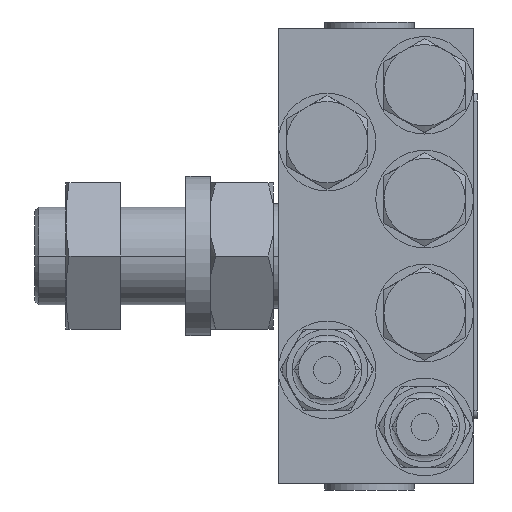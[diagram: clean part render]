
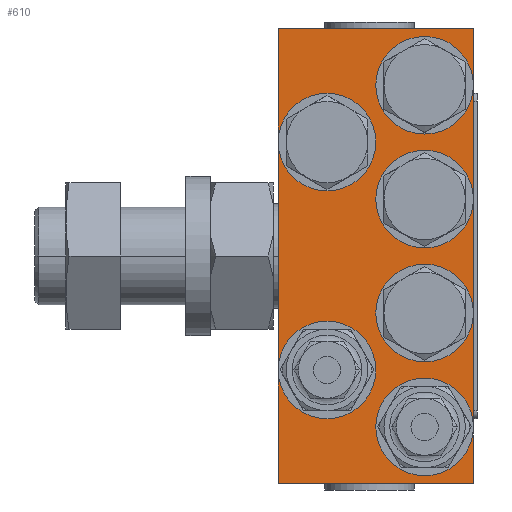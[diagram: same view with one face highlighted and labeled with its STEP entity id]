
A CAD part, left-side view. The second image highlights one B-rep face of the part: STEP entity #610.
In plain terms, the highlighted planar face has unit normal (-1, 0, 0).
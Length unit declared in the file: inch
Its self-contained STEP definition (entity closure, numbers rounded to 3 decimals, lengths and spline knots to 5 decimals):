
#1=DIRECTION('',(0.,-1.,0.));
#2=VECTOR('',#1,1.5);
#3=CARTESIAN_POINT('',(-0.5,0.75,0.));
#4=LINE('',#3,#2);
#17=DIRECTION('',(0.,-1.,0.));
#18=VECTOR('',#17,1.5);
#19=CARTESIAN_POINT('',(-0.5,0.75,3.5));
#20=LINE('',#19,#18);
#33=CARTESIAN_POINT('',(-0.5,0.375,0.875));
#34=DIRECTION('',(-1.,0.,0.));
#35=DIRECTION('',(0.,1.,0.));
#36=AXIS2_PLACEMENT_3D('',#33,#34,#35);
#38=CARTESIAN_POINT('',(-0.5,0.375,0.875));
#39=DIRECTION('',(-1.,0.,0.));
#40=DIRECTION('',(0.,-1.,0.));
#41=AXIS2_PLACEMENT_3D('',#38,#39,#40);
#43=DIRECTION('',(0.,0.,1.));
#44=VECTOR('',#43,1.75);
#45=CARTESIAN_POINT('',(-0.5,0.75,0.875));
#46=LINE('',#45,#44);
#47=CARTESIAN_POINT('',(-0.5,0.375,2.625));
#48=DIRECTION('',(-1.,0.,0.));
#49=DIRECTION('',(0.,1.,0.));
#50=AXIS2_PLACEMENT_3D('',#47,#48,#49);
#52=CARTESIAN_POINT('',(-0.5,0.375,2.625));
#53=DIRECTION('',(-1.,0.,0.));
#54=DIRECTION('',(0.,-1.,0.));
#55=AXIS2_PLACEMENT_3D('',#52,#53,#54);
#57=DIRECTION('',(0.,0.,1.));
#58=VECTOR('',#57,0.875);
#59=CARTESIAN_POINT('',(-0.5,0.75,2.625));
#60=LINE('',#59,#58);
#61=CARTESIAN_POINT('',(-0.5,-0.375,3.062));
#62=DIRECTION('',(-1.,0.,0.));
#63=DIRECTION('',(0.,-1.,0.));
#64=AXIS2_PLACEMENT_3D('',#61,#62,#63);
#66=CARTESIAN_POINT('',(-0.5,-0.375,3.062));
#67=DIRECTION('',(-1.,0.,0.));
#68=DIRECTION('',(0.,1.,0.));
#69=AXIS2_PLACEMENT_3D('',#66,#67,#68);
#71=CARTESIAN_POINT('',(-0.5,-0.375,2.187));
#72=DIRECTION('',(-1.,0.,0.));
#73=DIRECTION('',(0.,-1.,0.));
#74=AXIS2_PLACEMENT_3D('',#71,#72,#73);
#76=CARTESIAN_POINT('',(-0.5,-0.375,2.187));
#77=DIRECTION('',(-1.,0.,0.));
#78=DIRECTION('',(0.,1.,0.));
#79=AXIS2_PLACEMENT_3D('',#76,#77,#78);
#81=CARTESIAN_POINT('',(-0.5,-0.375,1.312));
#82=DIRECTION('',(-1.,0.,0.));
#83=DIRECTION('',(0.,-1.,0.));
#84=AXIS2_PLACEMENT_3D('',#81,#82,#83);
#86=CARTESIAN_POINT('',(-0.5,-0.375,1.312));
#87=DIRECTION('',(-1.,0.,0.));
#88=DIRECTION('',(0.,1.,0.));
#89=AXIS2_PLACEMENT_3D('',#86,#87,#88);
#91=CARTESIAN_POINT('',(-0.5,-0.375,0.437));
#92=DIRECTION('',(-1.,0.,0.));
#93=DIRECTION('',(0.,-1.,0.));
#94=AXIS2_PLACEMENT_3D('',#91,#92,#93);
#96=CARTESIAN_POINT('',(-0.5,-0.375,0.437));
#97=DIRECTION('',(-1.,0.,0.));
#98=DIRECTION('',(0.,1.,0.));
#99=AXIS2_PLACEMENT_3D('',#96,#97,#98);
#101=DIRECTION('',(0.,0.,1.));
#102=VECTOR('',#101,0.875);
#103=CARTESIAN_POINT('',(-0.5,0.75,0.));
#104=LINE('',#103,#102);
#105=DIRECTION('',(0.,0.,1.));
#106=VECTOR('',#105,0.437);
#107=CARTESIAN_POINT('',(-0.5,-0.75,0.));
#108=LINE('',#107,#106);
#109=DIRECTION('',(0.,0.,1.));
#110=VECTOR('',#109,0.875);
#111=CARTESIAN_POINT('',(-0.5,-0.75,0.437));
#112=LINE('',#111,#110);
#113=DIRECTION('',(0.,0.,1.));
#114=VECTOR('',#113,0.875);
#115=CARTESIAN_POINT('',(-0.5,-0.75,1.312));
#116=LINE('',#115,#114);
#117=DIRECTION('',(0.,0.,1.));
#118=VECTOR('',#117,0.875);
#119=CARTESIAN_POINT('',(-0.5,-0.75,2.187));
#120=LINE('',#119,#118);
#121=DIRECTION('',(0.,0.,1.));
#122=VECTOR('',#121,0.438);
#123=CARTESIAN_POINT('',(-0.5,-0.75,3.062));
#124=LINE('',#123,#122);
#417=CARTESIAN_POINT('',(-0.5,0.75,0.));
#418=CARTESIAN_POINT('',(-0.5,-0.75,0.));
#419=VERTEX_POINT('',#417);
#420=VERTEX_POINT('',#418);
#425=CARTESIAN_POINT('',(-0.5,0.75,3.5));
#426=CARTESIAN_POINT('',(-0.5,-0.75,3.5));
#427=VERTEX_POINT('',#425);
#428=VERTEX_POINT('',#426);
#435=CARTESIAN_POINT('',(-0.5,-0.75,3.062));
#436=VERTEX_POINT('',#435);
#471=CARTESIAN_POINT('',(-0.5,0.,3.062));
#472=VERTEX_POINT('',#471);
#477=CARTESIAN_POINT('',(-0.5,0.,2.187));
#478=CARTESIAN_POINT('',(-0.5,-0.75,2.187));
#479=VERTEX_POINT('',#477);
#480=VERTEX_POINT('',#478);
#485=CARTESIAN_POINT('',(-0.5,0.,1.312));
#486=CARTESIAN_POINT('',(-0.5,-0.75,1.312));
#487=VERTEX_POINT('',#485);
#488=VERTEX_POINT('',#486);
#493=CARTESIAN_POINT('',(-0.5,0.,0.437));
#494=CARTESIAN_POINT('',(-0.5,-0.75,0.437));
#495=VERTEX_POINT('',#493);
#496=VERTEX_POINT('',#494);
#517=CARTESIAN_POINT('',(-0.5,0.75,2.625));
#518=CARTESIAN_POINT('',(-0.5,0.,2.625));
#519=VERTEX_POINT('',#517);
#520=VERTEX_POINT('',#518);
#525=CARTESIAN_POINT('',(-0.5,0.75,0.875));
#526=CARTESIAN_POINT('',(-0.5,0.,0.875));
#527=VERTEX_POINT('',#525);
#528=VERTEX_POINT('',#526);
#561=CARTESIAN_POINT('',(-0.5,0.75,0.));
#562=DIRECTION('',(-1.,0.,0.));
#563=DIRECTION('',(0.,-1.,0.));
#564=AXIS2_PLACEMENT_3D('',#561,#562,#563);
#565=PLANE('',#564);
#567=ORIENTED_EDGE('',*,*,#566,.T.);
#569=ORIENTED_EDGE('',*,*,#568,.T.);
#571=ORIENTED_EDGE('',*,*,#570,.T.);
#573=ORIENTED_EDGE('',*,*,#572,.T.);
#575=ORIENTED_EDGE('',*,*,#574,.T.);
#577=ORIENTED_EDGE('',*,*,#576,.T.);
#578=ORIENTED_EDGE('',*,*,#550,.T.);
#580=ORIENTED_EDGE('',*,*,#579,.F.);
#582=ORIENTED_EDGE('',*,*,#581,.T.);
#584=ORIENTED_EDGE('',*,*,#583,.T.);
#586=ORIENTED_EDGE('',*,*,#585,.F.);
#588=ORIENTED_EDGE('',*,*,#587,.T.);
#590=ORIENTED_EDGE('',*,*,#589,.T.);
#592=ORIENTED_EDGE('',*,*,#591,.F.);
#594=ORIENTED_EDGE('',*,*,#593,.T.);
#596=ORIENTED_EDGE('',*,*,#595,.T.);
#598=ORIENTED_EDGE('',*,*,#597,.F.);
#600=ORIENTED_EDGE('',*,*,#599,.T.);
#602=ORIENTED_EDGE('',*,*,#601,.T.);
#604=ORIENTED_EDGE('',*,*,#603,.F.);
#605=ORIENTED_EDGE('',*,*,#534,.F.);
#607=ORIENTED_EDGE('',*,*,#606,.T.);
#608=EDGE_LOOP('',(#567,#569,#571,#573,#575,#577,#578,#580,#582,#584,#586,#588,
#590,#592,#594,#596,#598,#600,#602,#604,#605,#607));
#609=FACE_OUTER_BOUND('',#608,.F.);
#610=ADVANCED_FACE('',(#609),#565,.T.);
#37=CIRCLE('',#36,0.375);
#42=CIRCLE('',#41,0.375);
#51=CIRCLE('',#50,0.375);
#56=CIRCLE('',#55,0.375);
#65=CIRCLE('',#64,0.375);
#70=CIRCLE('',#69,0.375);
#75=CIRCLE('',#74,0.375);
#80=CIRCLE('',#79,0.375);
#85=CIRCLE('',#84,0.375);
#90=CIRCLE('',#89,0.375);
#95=CIRCLE('',#94,0.375);
#100=CIRCLE('',#99,0.375);
#534=EDGE_CURVE('',#419,#420,#4,.T.);
#550=EDGE_CURVE('',#427,#428,#20,.T.);
#566=EDGE_CURVE('',#527,#528,#37,.T.);
#568=EDGE_CURVE('',#528,#527,#42,.T.);
#570=EDGE_CURVE('',#527,#519,#46,.T.);
#572=EDGE_CURVE('',#519,#520,#51,.T.);
#574=EDGE_CURVE('',#520,#519,#56,.T.);
#576=EDGE_CURVE('',#519,#427,#60,.T.);
#579=EDGE_CURVE('',#436,#428,#124,.T.);
#581=EDGE_CURVE('',#436,#472,#65,.T.);
#583=EDGE_CURVE('',#472,#436,#70,.T.);
#585=EDGE_CURVE('',#480,#436,#120,.T.);
#587=EDGE_CURVE('',#480,#479,#75,.T.);
#589=EDGE_CURVE('',#479,#480,#80,.T.);
#591=EDGE_CURVE('',#488,#480,#116,.T.);
#593=EDGE_CURVE('',#488,#487,#85,.T.);
#595=EDGE_CURVE('',#487,#488,#90,.T.);
#597=EDGE_CURVE('',#496,#488,#112,.T.);
#599=EDGE_CURVE('',#496,#495,#95,.T.);
#601=EDGE_CURVE('',#495,#496,#100,.T.);
#603=EDGE_CURVE('',#420,#496,#108,.T.);
#606=EDGE_CURVE('',#419,#527,#104,.T.);
